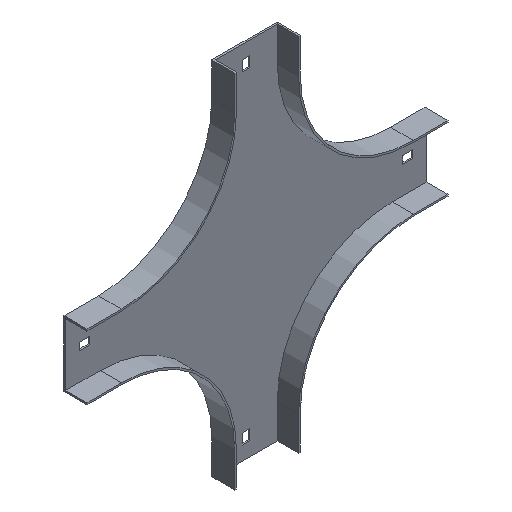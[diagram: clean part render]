
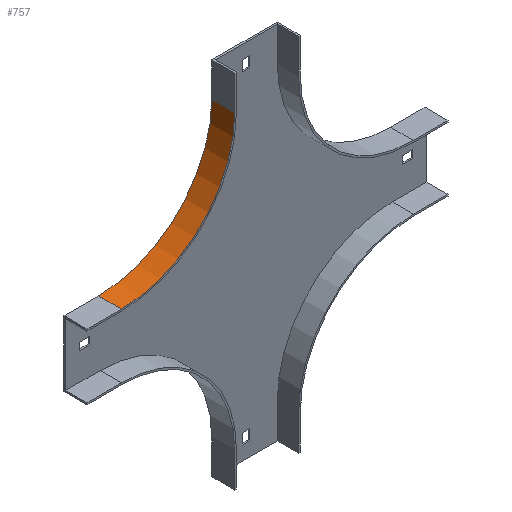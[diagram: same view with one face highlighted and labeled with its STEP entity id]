
A CAD part, isometric view. The second image highlights one B-rep face of the part: STEP entity #757.
In plain terms, the highlighted cylindrical face has radius 98.5 mm (diameter 197 mm), a partial arc.
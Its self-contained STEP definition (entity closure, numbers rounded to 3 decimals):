
#10 = ORIENTED_EDGE ( 'NONE', *, *, #985, .F. ) ;
#115 = CARTESIAN_POINT ( 'NONE',  ( -254., -20., -98.5 ) ) ;
#228 = CIRCLE ( 'NONE', #719, 98.5 ) ;
#258 = DIRECTION ( 'NONE',  ( 0., -1., 0. ) ) ;
#264 = EDGE_CURVE ( 'NONE', #1266, #1671, #1370, .T. ) ;
#300 = LINE ( 'NONE', #115, #1457 ) ;
#320 = CYLINDRICAL_SURFACE ( 'NONE', #453, 98.5 ) ;
#340 = CARTESIAN_POINT ( 'NONE',  ( -155.5, -20., 0. ) ) ;
#410 = DIRECTION ( 'NONE',  ( 0., -1., 0. ) ) ;
#418 = EDGE_CURVE ( 'NONE', #492, #1266, #228, .T. ) ;
#453 = AXIS2_PLACEMENT_3D ( 'NONE', #462, #1501, #1385 ) ;
#462 = CARTESIAN_POINT ( 'NONE',  ( -254., -20., 0. ) ) ;
#492 = VERTEX_POINT ( 'NONE', #1425 ) ;
#538 = VERTEX_POINT ( 'NONE', #675 ) ;
#542 = DIRECTION ( 'NONE',  ( 0., 0., 1. ) ) ;
#627 = VECTOR ( 'NONE', #1511, 1000. ) ;
#675 = CARTESIAN_POINT ( 'NONE',  ( -254., 0., -98.5 ) ) ;
#694 = CARTESIAN_POINT ( 'NONE',  ( -155.5, 0., 0. ) ) ;
#712 = CIRCLE ( 'NONE', #1278, 98.5 ) ;
#719 = AXIS2_PLACEMENT_3D ( 'NONE', #756, #258, #1547 ) ;
#756 = CARTESIAN_POINT ( 'NONE',  ( -254., -20., 0. ) ) ;
#757 = ADVANCED_FACE ( 'NONE', ( #864 ), #320, .F. ) ;
#763 = ORIENTED_EDGE ( 'NONE', *, *, #1428, .F. ) ;
#785 = ORIENTED_EDGE ( 'NONE', *, *, #264, .T. ) ;
#790 = DIRECTION ( 'NONE',  ( 0., 1., 0. ) ) ;
#863 = CARTESIAN_POINT ( 'NONE',  ( -155.5, -20., 0. ) ) ;
#864 = FACE_OUTER_BOUND ( 'NONE', #1268, .T. ) ;
#985 = EDGE_CURVE ( 'NONE', #492, #538, #300, .T. ) ;
#1101 = CARTESIAN_POINT ( 'NONE',  ( -254., 0., 0. ) ) ;
#1266 = VERTEX_POINT ( 'NONE', #863 ) ;
#1268 = EDGE_LOOP ( 'NONE', ( #763, #10, #1464, #785 ) ) ;
#1278 = AXIS2_PLACEMENT_3D ( 'NONE', #1101, #410, #542 ) ;
#1370 = LINE ( 'NONE', #340, #627 ) ;
#1385 = DIRECTION ( 'NONE',  ( 0., 0., 1. ) ) ;
#1425 = CARTESIAN_POINT ( 'NONE',  ( -254., -20., -98.5 ) ) ;
#1428 = EDGE_CURVE ( 'NONE', #538, #1671, #712, .T. ) ;
#1457 = VECTOR ( 'NONE', #790, 1000. ) ;
#1464 = ORIENTED_EDGE ( 'NONE', *, *, #418, .T. ) ;
#1501 = DIRECTION ( 'NONE',  ( 0., 1., 0. ) ) ;
#1511 = DIRECTION ( 'NONE',  ( 0., 1., 0. ) ) ;
#1547 = DIRECTION ( 'NONE',  ( 0., 0., 1. ) ) ;
#1671 = VERTEX_POINT ( 'NONE', #694 ) ;
